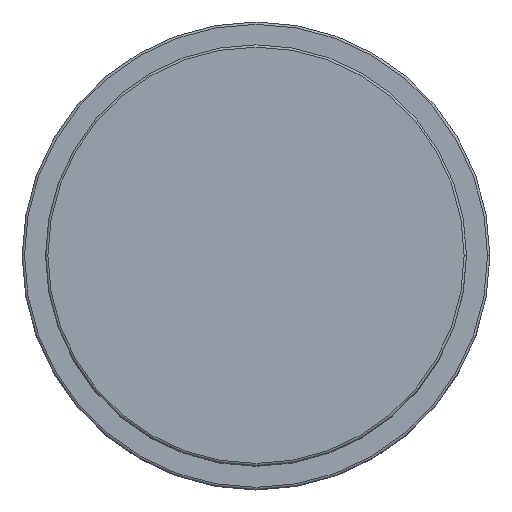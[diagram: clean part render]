
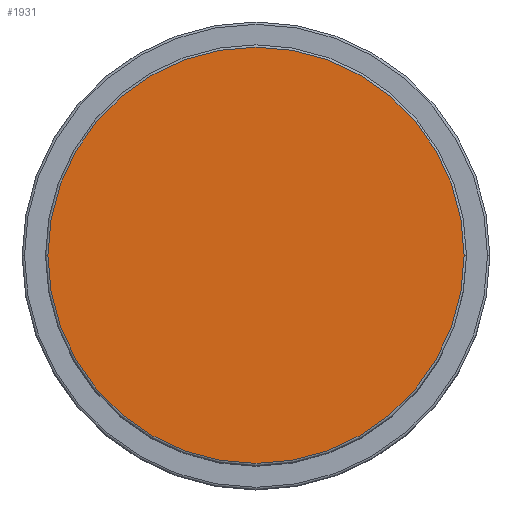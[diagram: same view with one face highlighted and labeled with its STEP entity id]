
A CAD part, top view. The second image highlights one B-rep face of the part: STEP entity #1931.
In plain terms, the highlighted planar face has unit normal (0, 0, 1).
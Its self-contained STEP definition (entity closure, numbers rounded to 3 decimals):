
#36 = CARTESIAN_POINT ( 'NONE',  ( 0., 0., 87. ) ) ;
#45 = EDGE_LOOP ( 'NONE', ( #1683, #1150 ) ) ;
#73 = CIRCLE ( 'NONE', #1384, 44.5 ) ;
#414 = VERTEX_POINT ( 'NONE', #1920 ) ;
#508 = AXIS2_PLACEMENT_3D ( 'NONE', #761, #2015, #1079 ) ;
#613 = PLANE ( 'NONE',  #508 ) ;
#761 = CARTESIAN_POINT ( 'NONE',  ( 0., 0., 87. ) ) ;
#819 = EDGE_CURVE ( 'NONE', #414, #1950, #1982, .T. ) ;
#822 = DIRECTION ( 'NONE',  ( 0., 0., 1. ) ) ;
#840 = FACE_OUTER_BOUND ( 'NONE', #45, .T. ) ;
#962 = DIRECTION ( 'NONE',  ( 1., 0., 0. ) ) ;
#1004 = AXIS2_PLACEMENT_3D ( 'NONE', #1124, #1289, #1448 ) ;
#1028 = EDGE_CURVE ( 'NONE', #1950, #414, #73, .T. ) ;
#1079 = DIRECTION ( 'NONE',  ( 1., 0., 0. ) ) ;
#1114 = CARTESIAN_POINT ( 'NONE',  ( -44.5, 0., 87. ) ) ;
#1124 = CARTESIAN_POINT ( 'NONE',  ( 0., 0., 87. ) ) ;
#1150 = ORIENTED_EDGE ( 'NONE', *, *, #1028, .T. ) ;
#1289 = DIRECTION ( 'NONE',  ( 0., 0., 1. ) ) ;
#1384 = AXIS2_PLACEMENT_3D ( 'NONE', #36, #822, #962 ) ;
#1448 = DIRECTION ( 'NONE',  ( 1., 0., 0. ) ) ;
#1683 = ORIENTED_EDGE ( 'NONE', *, *, #819, .T. ) ;
#1920 = CARTESIAN_POINT ( 'NONE',  ( 44.5, 0., 87. ) ) ;
#1931 = ADVANCED_FACE ( 'NONE', ( #840 ), #613, .T. ) ;
#1950 = VERTEX_POINT ( 'NONE', #1114 ) ;
#1982 = CIRCLE ( 'NONE', #1004, 44.5 ) ;
#2015 = DIRECTION ( 'NONE',  ( 0., 0., 1. ) ) ;
